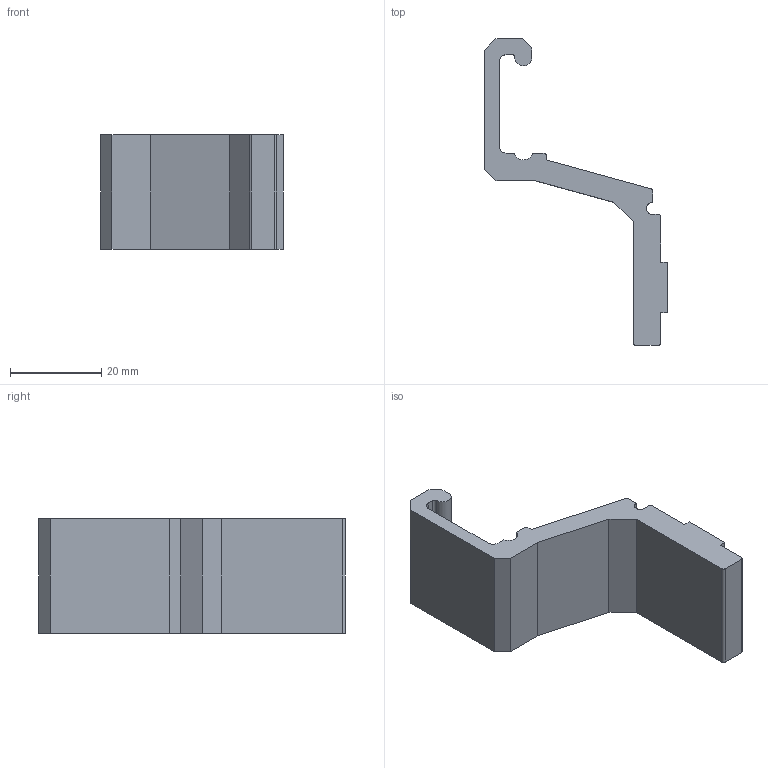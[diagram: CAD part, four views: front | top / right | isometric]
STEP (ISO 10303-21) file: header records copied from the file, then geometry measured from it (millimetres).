
FILE_DESCRIPTION (( 'STEP AP214' ), '1' );
FILE_NAME ('FGRB 35X30.step', '2017-04-05T07:37:50', ( '' ), ( '' ), 'SwSTEP 2.0', 'SolidWorks 2015', '' );
FILE_SCHEMA (( 'AUTOMOTIVE_DESIGN' ));
Length unit declared in the file: millimetre
Products named in the file (1): FGRB 35X30
Bounding box: 40 x 67 x 25 mm (x, y, z)
Volume: 12470.5 mm3; surface area: 6392.6 mm2
Topology: 1 solids, 1 shells, 40 faces, 114 edges, 76 vertices
Faces by surface type: plane 27, cylinder 13
Entity records: 1338 total; most frequent: CARTESIAN_POINT 231, ORIENTED_EDGE 228, DIRECTION 222, EDGE_CURVE 114, LINE 88, VECTOR 88, VERTEX_POINT 76, AXIS2_PLACEMENT_3D 67
